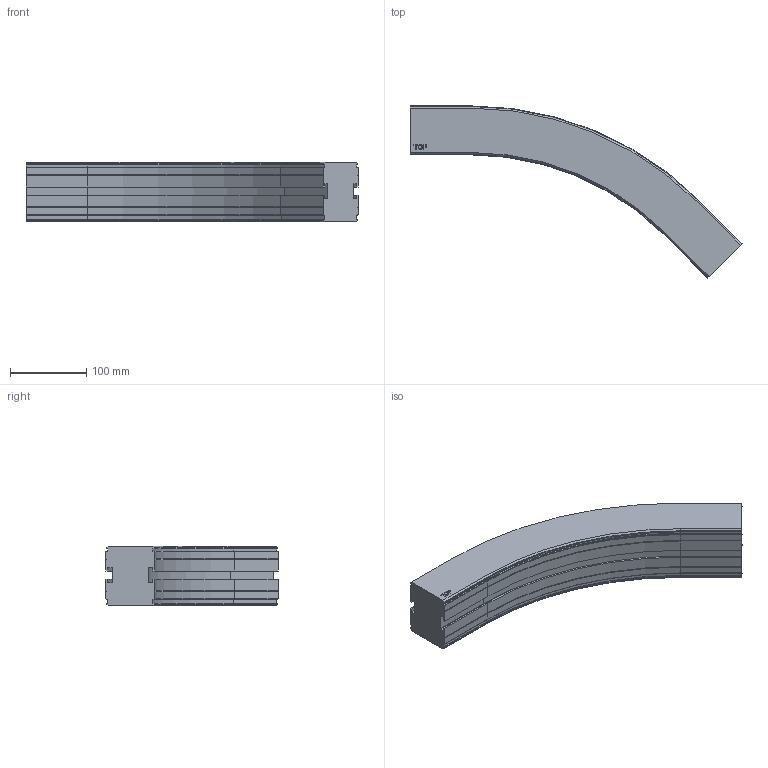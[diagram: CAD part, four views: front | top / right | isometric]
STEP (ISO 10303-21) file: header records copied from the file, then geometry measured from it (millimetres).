
FILE_DESCRIPTION((''),'2;1');
FILE_NAME('C:\Vault Klient\Projekt\Koncept konstruktion\Serie 620 Balk\620-5250.stp','2009-11-26T15:05:42',('Mathias'),(''),'Autodesk Inventor 2010','Autodesk Inventor 2010','');
FILE_SCHEMA(('AUTOMOTIVE_DESIGN { 1 0 10303 214 1 1 1 1 }'));
Length unit declared in the file: millimetre
Products named in the file (1): 620-5250
Bounding box: 434.26 x 225.13 x 78 mm (x, y, z)
Volume: 2164867.2 mm3; surface area: 177135 mm2
Topology: 1 solids, 1 shells, 169 faces, 446 edges, 284 vertices
Faces by surface type: plane 109, cylinder 30, bspline 14, cone 12, torus 4
Entity records: 5295 total; most frequent: CARTESIAN_POINT 1094, ORIENTED_EDGE 892, DIRECTION 802, EDGE_CURVE 446, VECTOR 346, LINE 346, VERTEX_POINT 284, AXIS2_PLACEMENT_3D 228
